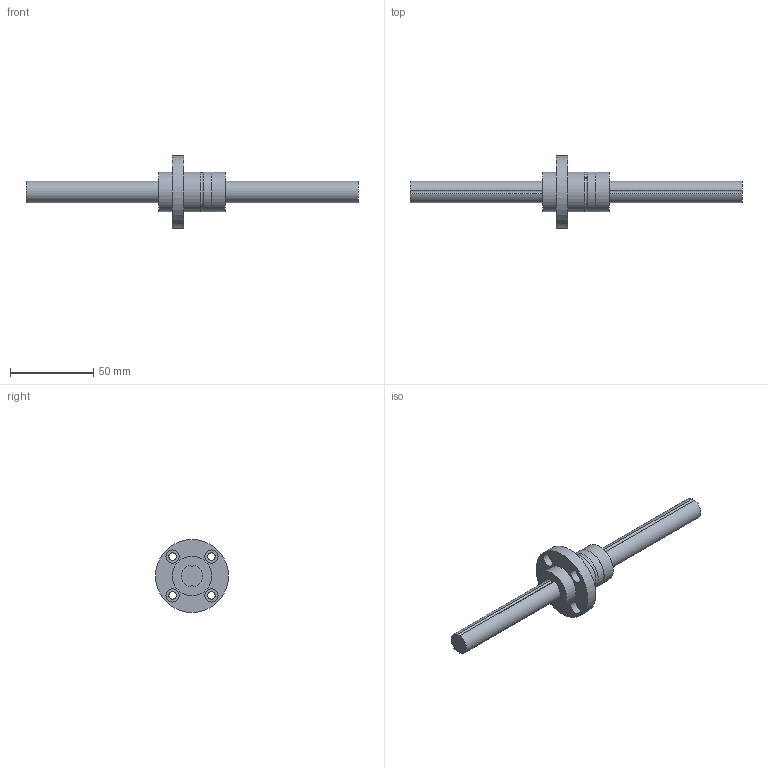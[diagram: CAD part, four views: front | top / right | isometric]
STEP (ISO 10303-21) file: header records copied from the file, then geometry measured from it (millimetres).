
FILE_DESCRIPTION((''),'2;1');
FILE_NAME('C:\Documents and Settings\土屋\My Documents\土屋移動用フォルダ\製品 (図面)\カタログ用3D\ボールスプライン\BSPF\BSPF13.stp','2015-02-23T13:31:17',('y'),(''),'Autodesk Inventor 11','Autodesk Inventor 11','');
FILE_SCHEMA(('AUTOMOTIVE_DESIGN { 1 0 10303 214 1 1 1 1 }'));
Length unit declared in the file: millimetre
Products named in the file (3): BSPF13; BSP13軸; BSPF13ナット
Assembly tree (2 placements, depth 2):
  BSPF13
    BSP13軸
    BSPF13ナット
Bounding box: 200 x 44 x 44 mm (x, y, z)
Volume: 45320.8 mm3; surface area: 16922.7 mm2
Topology: 2 solids, 2 shells, 37 faces, 76 edges, 52 vertices
Faces by surface type: bspline 15, cylinder 14, plane 8
Full cylindrical faces by diameter (mm): 1.5 x1, 23.8 x2, 24 x2, 44 x1
Entity records: 1233 total; most frequent: CARTESIAN_POINT 466, DIRECTION 150, ORIENTED_EDGE 108, EDGE_LOOP 72, AXIS2_PLACEMENT_3D 71, EDGE_CURVE 54, VERTEX_POINT 46, CIRCLE 44
